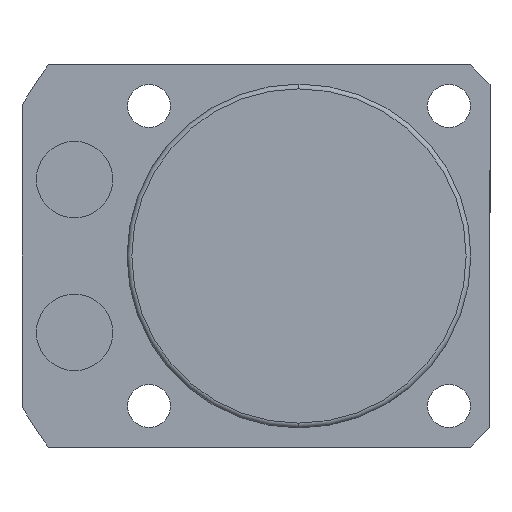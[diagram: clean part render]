
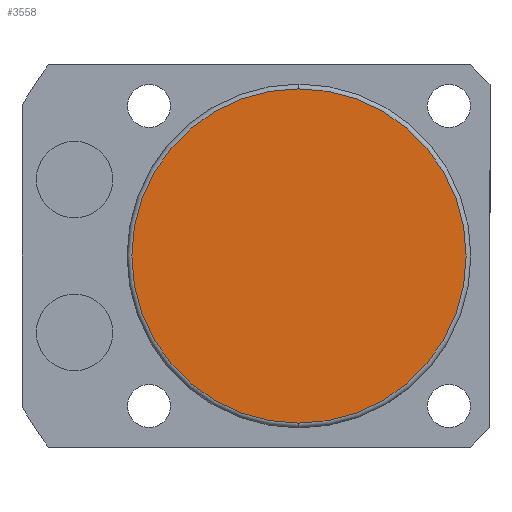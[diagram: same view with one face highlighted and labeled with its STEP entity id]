
A CAD part, front view. The second image highlights one B-rep face of the part: STEP entity #3558.
In plain terms, the highlighted planar face has unit normal (0, -1, 0).
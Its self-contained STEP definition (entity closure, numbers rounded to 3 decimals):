
#46 = DIRECTION ( 'NONE',  ( 0., 0., -1. ) ) ;
#315 = FACE_OUTER_BOUND ( 'NONE', #2701, .T. ) ;
#369 = CIRCLE ( 'NONE', #1201, 17.5 ) ;
#503 = CARTESIAN_POINT ( 'NONE',  ( 0., -40.5, 0. ) ) ;
#764 = VERTEX_POINT ( 'NONE', #3475 ) ;
#873 = PLANE ( 'NONE',  #2364 ) ;
#1201 = AXIS2_PLACEMENT_3D ( 'NONE', #3167, #3183, #46 ) ;
#1352 = CARTESIAN_POINT ( 'NONE',  ( 0., -40.5, 0. ) ) ;
#1584 = VERTEX_POINT ( 'NONE', #3426 ) ;
#1670 = AXIS2_PLACEMENT_3D ( 'NONE', #503, #4793, #4809 ) ;
#2269 = ORIENTED_EDGE ( 'NONE', *, *, #4883, .T. ) ;
#2364 = AXIS2_PLACEMENT_3D ( 'NONE', #1352, #3705, #2931 ) ;
#2701 = EDGE_LOOP ( 'NONE', ( #4735, #2269 ) ) ;
#2931 = DIRECTION ( 'NONE',  ( 0., 0., -1. ) ) ;
#3167 = CARTESIAN_POINT ( 'NONE',  ( 0., -40.5, 0. ) ) ;
#3183 = DIRECTION ( 'NONE',  ( 0., -1., 0. ) ) ;
#3191 = CIRCLE ( 'NONE', #1670, 17.5 ) ;
#3333 = EDGE_CURVE ( 'NONE', #1584, #764, #369, .T. ) ;
#3426 = CARTESIAN_POINT ( 'NONE',  ( 0., -40.5, -17.5 ) ) ;
#3475 = CARTESIAN_POINT ( 'NONE',  ( 0., -40.5, 17.5 ) ) ;
#3558 = ADVANCED_FACE ( 'NONE', ( #315 ), #873, .T. ) ;
#3705 = DIRECTION ( 'NONE',  ( 0., -1., 0. ) ) ;
#4735 = ORIENTED_EDGE ( 'NONE', *, *, #3333, .T. ) ;
#4793 = DIRECTION ( 'NONE',  ( 0., -1., 0. ) ) ;
#4809 = DIRECTION ( 'NONE',  ( 0., 0., -1. ) ) ;
#4883 = EDGE_CURVE ( 'NONE', #764, #1584, #3191, .T. ) ;
